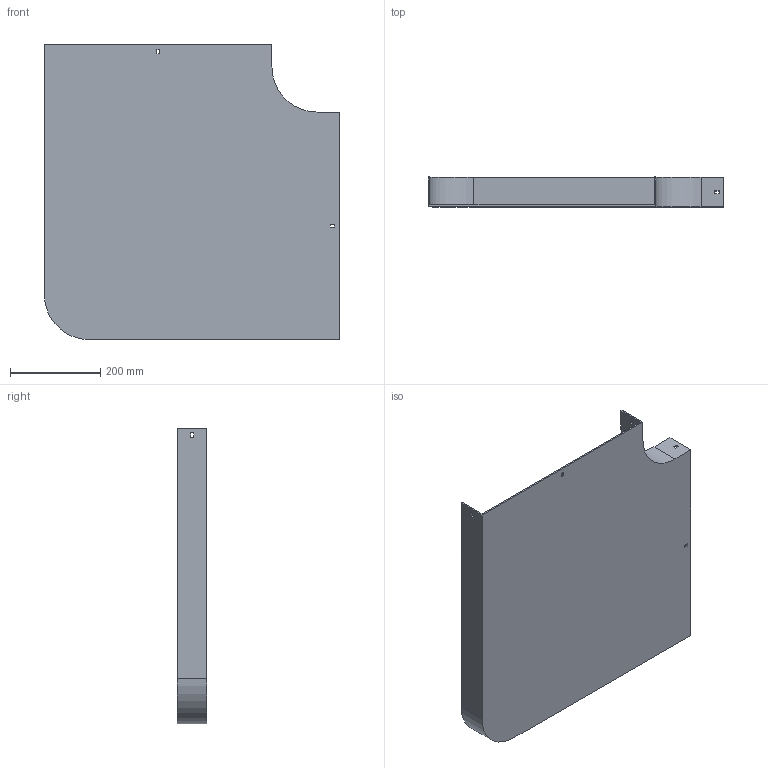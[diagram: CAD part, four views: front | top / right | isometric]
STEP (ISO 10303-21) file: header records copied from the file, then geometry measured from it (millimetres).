
FILE_DESCRIPTION (( 'STEP AP214' ), '1' );
FILE_NAME ('10B1H500.step', '2025-02-21T09:41:18', ( '' ), ( '' ), 'SwSTEP 2.0', 'SolidWorks 2023', '' );
FILE_SCHEMA (( 'AUTOMOTIVE_DESIGN' ));
Length unit declared in the file: millimetre
Products named in the file (1): 10B1H500
Bounding box: 654 x 65.5 x 654 mm (x, y, z)
Volume: 1747175.1 mm3; surface area: 1008802.3 mm2
Topology: 1 solids, 1 shells, 42 faces, 120 edges, 80 vertices
Faces by surface type: plane 38, cylinder 4
Entity records: 1399 total; most frequent: CARTESIAN_POINT 243, ORIENTED_EDGE 240, DIRECTION 214, EDGE_CURVE 120, VECTOR 112, LINE 112, VERTEX_POINT 80, EDGE_LOOP 54
